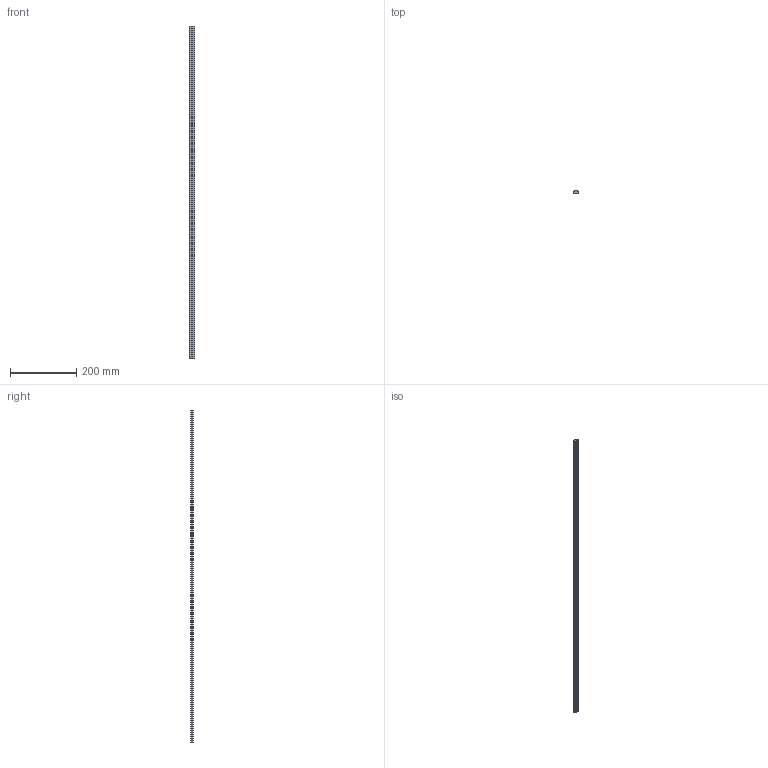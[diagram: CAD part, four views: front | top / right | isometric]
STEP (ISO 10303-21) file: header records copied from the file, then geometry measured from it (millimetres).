
FILE_DESCRIPTION (( 'STEP AP214' ), '1' );
FILE_NAME ('S10S4550.STEP', '2017-09-01T11:07:12', ( '' ), ( '' ), 'SwSTEP 2.0', 'SolidWorks 2014', '' );
FILE_SCHEMA (( 'AUTOMOTIVE_DESIGN' ));
Length unit declared in the file: millimetre
Products named in the file (2): S10S4550
Bounding box: 18 x 9 x 1000 mm (x, y, z)
Volume: 130701 mm3; surface area: 51399.1 mm2
Topology: 1 solids, 1 shells, 24 faces, 66 edges, 44 vertices
Faces by surface type: plane 18, cylinder 6
Entity records: 811 total; most frequent: CARTESIAN_POINT 136, ORIENTED_EDGE 132, DIRECTION 130, EDGE_CURVE 66, LINE 54, VECTOR 54, VERTEX_POINT 44, AXIS2_PLACEMENT_3D 38
